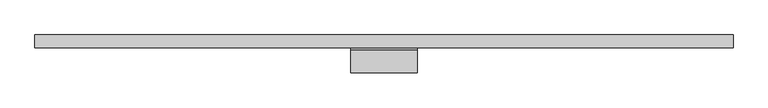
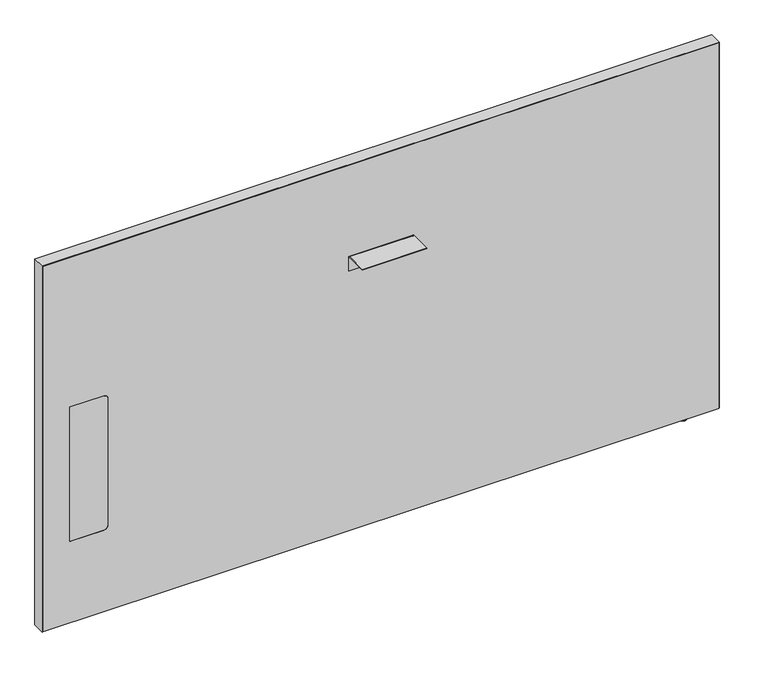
"""IFC4 building model written with IfcOpenShell, lengths in millimetres: furniture geometry, Steelcase - Answer Solution - Boundary Screen - Straight - Single Sided : 36H x 63W."""

import ifcopenshell
import ifcopenshell.guid

model = None  # the IFC model being written
_history = None  # IfcOwnerHistory: only IFC2X3 demands one
_inside = {}  # id of a spatial element -> (the spatial element, [elements in it])
_under = {}  # id of a project, library or spatial element -> (it, [spatial elements below it])
_declared = {}  # id of a project -> (the project, [libraries it declares])
_typed = {}  # id of a type object -> (the type object, [elements of that type])
_made_of = {}  # id of a material, layer set ... -> (it, [elements and type objects made of it])


def new_model(schema):
    """Start an empty IFC model of exactly this schema.

    Asked for "IFC4X3", IfcOpenShell would pick the latest addendum, in which some entities
    have other attributes; the version numbers below select the first issue.
    IFC2X3 requires an IfcOwnerHistory on every rooted entity: one is made here for all.
    """
    global model, _history
    if schema == "IFC4X3":
        model = ifcopenshell.file(schema_version=(4, 3, 0, 0))
    else:
        model = ifcopenshell.file(schema=schema)
    _inside.clear()
    _under.clear()
    _declared.clear()
    _typed.clear()
    _made_of.clear()
    _history = None
    if model.schema == "IFC2X3":
        org = make("IfcOrganization", Name="unknown")
        user = make(
            "IfcPersonAndOrganization",
            ThePerson=make("IfcPerson", FamilyName="unknown"),
            TheOrganization=org,
        )
        app = make(
            "IfcApplication",
            ApplicationDeveloper=org,
            Version="unknown",
            ApplicationFullName="unknown",
            ApplicationIdentifier="unknown",
        )
        _history = make(
            "IfcOwnerHistory",
            OwningUser=user,
            OwningApplication=app,
            ChangeAction="ADDED",
            CreationDate=0,
        )
    return model


def make(cls, **values):
    """One entity of the class cls with the attributes given. An attribute that is None is left unset."""
    return model.create_entity(
        cls, **{name: value for name, value in values.items() if value is not None}
    )


def rooted(cls, **values):
    """An entity with a GlobalId (a new one), such as an element, a storey or a relation."""
    return make(cls, GlobalId=ifcopenshell.guid.new(), OwnerHistory=_history, **values)


def si_unit(unit_type, name, prefix=None):
    """IfcSIUnit, for example si_unit("LENGTHUNIT", "METRE", prefix="MILLI")."""
    return make("IfcSIUnit", UnitType=unit_type, Prefix=prefix, Name=name)


def assignment(units):
    """IfcUnitAssignment: the units of a project."""
    return None if units is None else make("IfcUnitAssignment", Units=units)


def point(xyz):
    """IfcCartesianPoint."""
    return None if xyz is None else make("IfcCartesianPoint", Coordinates=xyz)


def direction(xyz):
    """IfcDirection."""
    return None if xyz is None else make("IfcDirection", DirectionRatios=xyz)


def frame(location, z_axis=None, x_axis=None):
    """IfcAxis2Placement3D, a coordinate frame: its origin and axes. An axis left out is left unset."""
    return make(
        "IfcAxis2Placement3D",
        Location=point(location),
        Axis=direction(z_axis),
        RefDirection=direction(x_axis),
    )


def frame_2d(location, x_axis=None):
    """IfcAxis2Placement2D, a coordinate frame in the plane: its origin and x axis."""
    return make(
        "IfcAxis2Placement2D", Location=point(location), RefDirection=direction(x_axis)
    )


def origin():
    """The frame at (0, 0, 0) with its axes left unset."""
    return frame((0.0, 0.0, 0.0))


def place(relative_to, where):
    """IfcLocalPlacement: puts the frame where relative to a parent placement (None: the world)."""
    return make(
        "IfcLocalPlacement", PlacementRelTo=relative_to, RelativePlacement=where
    )


def context(
    kind, dimensions, precision=None, world=None, true_north=None, identifier=None
):
    """IfcGeometricRepresentationContext, for example the 3D "Model" context."""
    return make(
        "IfcGeometricRepresentationContext",
        ContextIdentifier=identifier,
        ContextType=kind,
        CoordinateSpaceDimension=dimensions,
        Precision=precision,
        WorldCoordinateSystem=world,
        TrueNorth=true_north,
    )


def project(units=None, contexts=None):
    """IfcProject with its units and contexts."""
    return rooted(
        "IfcProject",
        Name="project",
        RepresentationContexts=contexts,
        UnitsInContext=assignment(units),
    )


def spatial(cls, under=None, at=None, **own):
    """A site, building, storey or space (cls), placed at a placement, below another one or the project."""
    s = rooted(cls, ObjectPlacement=at, **own)
    if under is not None:
        _under.setdefault(under.id(), (under, []))[1].append(s)
    return s


def polyline(points):
    """IfcPolyline through the points."""
    return make("IfcPolyline", Points=[point(p) for p in points])


def circle_curve(where, radius):
    """IfcCircle in the frame where."""
    return make("IfcCircle", Position=where, Radius=radius)


def ellipse_curve(where, semi_axis1, semi_axis2):
    """IfcEllipse in the frame where."""
    return make(
        "IfcEllipse", Position=where, SemiAxis1=semi_axis1, SemiAxis2=semi_axis2
    )


def trimmed(basis, trim1, trim2, sense, master):
    """IfcTrimmedCurve: the piece of a basis curve between two trims."""
    return make(
        "IfcTrimmedCurve",
        BasisCurve=basis,
        Trim1=trim1,
        Trim2=trim2,
        SenseAgreement=sense,
        MasterRepresentation=master,
    )


def segment(curve, same_sense, transition):
    """IfcCompositeCurveSegment."""
    return make(
        "IfcCompositeCurveSegment",
        Transition=transition,
        SameSense=same_sense,
        ParentCurve=curve,
    )


def composite_curve(segments, self_intersect=None):
    """IfcCompositeCurve: segments joined end to end."""
    return make("IfcCompositeCurve", Segments=segments, SelfIntersect=self_intersect)


def outline(outer, holes=None, kind="AREA"):
    """IfcArbitraryClosedProfileDef: a profile drawn as a closed curve; with holes, ...WithVoids."""
    if holes is None:
        return make("IfcArbitraryClosedProfileDef", ProfileType=kind, OuterCurve=outer)
    return make(
        "IfcArbitraryProfileDefWithVoids",
        ProfileType=kind,
        OuterCurve=outer,
        InnerCurves=holes,
    )


def extrude(swept, where, along, depth):
    """IfcExtrudedAreaSolid: the profile swept, set in the frame where, extruded along a direction by depth."""
    return make(
        "IfcExtrudedAreaSolid",
        SweptArea=swept,
        Position=where,
        ExtrudedDirection=direction(along),
        Depth=depth,
    )


def shape(context_of_items, identifier, shape_type, items):
    """IfcShapeRepresentation: the items that make up one representation, for example the "Body"."""
    return make(
        "IfcShapeRepresentation",
        ContextOfItems=context_of_items,
        RepresentationIdentifier=identifier,
        RepresentationType=shape_type,
        Items=items,
    )


def source(mapping_origin, context_of_items, identifier, shape_type, items):
    """IfcRepresentationMap: a shape defined once, which mapped items show again and again."""
    return make(
        "IfcRepresentationMap",
        MappingOrigin=mapping_origin,
        MappedRepresentation=shape(context_of_items, identifier, shape_type, items),
    )


def transform(
    local_origin,
    x_axis=None,
    y_axis=None,
    z_axis=None,
    scale=None,
    scale2=None,
    scale3=None,
    uniform=True,
):
    """IfcCartesianTransformationOperator3D, or its non-uniform kind. x_axis, y_axis, z_axis: its Axis1, 2, 3."""
    if uniform:
        return make(
            "IfcCartesianTransformationOperator3D",
            Axis1=direction(x_axis),
            Axis2=direction(y_axis),
            LocalOrigin=point(local_origin),
            Scale=scale,
            Axis3=direction(z_axis),
        )
    return make(
        "IfcCartesianTransformationOperator3DnonUniform",
        Axis1=direction(x_axis),
        Axis2=direction(y_axis),
        LocalOrigin=point(local_origin),
        Scale=scale,
        Axis3=direction(z_axis),
        Scale2=scale2,
        Scale3=scale3,
    )


def mapped(mapping_source, mapping_target):
    """IfcMappedItem: shows the shape of a source again, moved by a transform."""
    return make(
        "IfcMappedItem", MappingSource=mapping_source, MappingTarget=mapping_target
    )


def made_of(thing, what):
    """Note that an element or type object is made of a material, layer set ...; save() writes the relation."""
    if what is not None:
        _made_of.setdefault(what.id(), (what, []))[1].append(thing)
    return thing


def element(
    cls,
    number,
    at=None,
    inside=None,
    cuts=None,
    type_object=None,
    material=None,
    context=None,
    identifier="Body",
    shape_type=None,
    held_by="IfcProductDefinitionShape",
    body=None,
    shapes=None,
    **own,
):
    """One element of the class cls, such as IfcWall. Its Tag is "e" and its number.

    at: its placement. inside: the storey or other place that contains it. cuts: it is an
    opening in that element (IfcRelVoidsElement). A single representation is given by context,
    identifier, shape_type and body (its items); several are given by shapes. held_by: the class
    of the entity that holds the representations. save() writes the other relations.
    """
    e = rooted(cls, Tag="e%d" % number, ObjectPlacement=at, **own)
    if body is not None:
        shapes = [shape(context, identifier, shape_type, body)]
    if shapes is not None:
        e.Representation = make(held_by, Representations=shapes)
    if inside is not None:
        _inside.setdefault(inside.id(), (inside, []))[1].append(e)
    if cuts is not None:
        rooted(
            "IfcRelVoidsElement", RelatingBuildingElement=cuts, RelatedOpeningElement=e
        )
    if type_object is not None:
        _typed.setdefault(type_object.id(), (type_object, []))[1].append(e)
    return made_of(e, material)


def aggregate(whole, parts):
    """IfcRelAggregates: a whole, such as a stair, and the parts it consists of."""
    return rooted("IfcRelAggregates", RelatingObject=whole, RelatedObjects=parts)


def save(model, path):
    """Write the relations noted so far, then the file.

    IfcRelAggregates (storeys below a building ...), IfcRelContainedInSpatialStructure (elements
    in a storey), IfcRelDefinesByType, IfcRelAssociatesMaterial and IfcRelDeclares: one each for
    every whole, place, type object, material and project.
    """
    for whole, parts in _under.values():
        aggregate(whole, parts)
    for where, things in _inside.values():
        rooted(
            "IfcRelContainedInSpatialStructure",
            RelatedElements=things,
            RelatingStructure=where,
        )
    for kind, things in _typed.values():
        rooted("IfcRelDefinesByType", RelatedObjects=things, RelatingType=kind)
    for what, things in _made_of.values():
        rooted("IfcRelAssociatesMaterial", RelatedObjects=things, RelatingMaterial=what)
    for by, libraries in _declared.values():
        rooted("IfcRelDeclares", RelatingContext=by, RelatedDefinitions=libraries)
    model.write(path)


def plane_surface(at):
    """IfcPlane: the flat surface through the origin of the frame at, square to its z axis."""
    return make("IfcPlane", Position=at)


def cylinder_surface(at, radius):
    """IfcCylindricalSurface: all points at the distance radius from the z axis of the frame at."""
    return make("IfcCylindricalSurface", Position=at, Radius=radius)


def revolved_surface(curve, axis_point, axis_direction):
    """IfcSurfaceOfRevolution: the curve turned about the line through axis_point along axis_direction."""
    return make(
        "IfcSurfaceOfRevolution",
        SweptCurve=make("IfcArbitraryOpenProfileDef", ProfileType="CURVE", Curve=curve),
        AxisPosition=make("IfcAxis1Placement", Location=point(axis_point), Axis=direction(axis_direction)),
    )


def advanced_brep(points, edges, surfaces, faces):
    """IfcAdvancedBrep: a solid bounded by faces that lie on surfaces and meet in shared edges.

    An edge is (start, end): straight between two places in points (the first is 0);
    or (start, end, curve); or (start, end, curve, False) where it runs against its curve.
    A face is (place in surfaces, loops), or (place, loops, False) where it looks against
    its surface's normal. A loop lists edges by number (the first is 1), with a minus sign
    where the edge is run from its end to its start. The first loop is the outer one.
    """
    corners = [point(p) for p in points]
    vertices = [make("IfcVertexPoint", VertexGeometry=c) for c in corners]
    made = []
    for start, end, *more in edges:
        made.append(
            make(
                "IfcEdgeCurve",
                EdgeStart=vertices[start],
                EdgeEnd=vertices[end],
                EdgeGeometry=more[0] if more else make("IfcPolyline", Points=[corners[start], corners[end]]),
                SameSense=more[1] if len(more) > 1 else True,
            )
        )
    hull = []
    for where, loops, *sense in faces:
        bounds = []
        for j, loop in enumerate(loops):
            ring = [make("IfcOrientedEdge", EdgeElement=made[abs(k) - 1], Orientation=k > 0) for k in loop]
            bounds.append(
                make(
                    "IfcFaceOuterBound" if j == 0 else "IfcFaceBound",
                    Bound=make("IfcEdgeLoop", EdgeList=ring),
                    Orientation=True,
                )
            )
        hull.append(make("IfcAdvancedFace", Bounds=bounds, FaceSurface=surfaces[where], SameSense=sense[0] if sense else True))
    return make("IfcAdvancedBrep", Outer=make("IfcClosedShell", CfsFaces=hull))


def furniture_8a1e546a(model_context):
    return source(origin(), model_context, "Body", "SolidModel", [
        extrude(outline(composite_curve([segment(polyline([(-86.8398151, 696.4680019), (-86.8398151, 698.5), (-34.9450855, 698.5)]), True, "CONTINUOUS"), segment(trimmed(circle_curve(frame_2d((-34.9450855, 693.2447477)), 5.2552523), [point((-34.9450855, 698.5))], [point((-29.6898332, 693.2447477))], False, "CARTESIAN"), True, "CONTINUOUS"), segment(polyline([(-29.6898332, 693.2447477), (-29.6898332, 660.4), (-31.7218162, 660.4), (-31.7218162, 693.0058743)]), True, "CONTINUOUS"), segment(trimmed(circle_curve(frame_2d((-35.1839438, 693.0058743)), 3.4621276), [point((-31.7218162, 693.0058743))], [point((-35.1839438, 696.4680019))], True, "CARTESIAN"), True, "CONTINUOUS"), segment(polyline([(-35.1839438, 696.4680019), (-86.8398151, 696.4680019)]), True, "CONTINUOUS")], self_intersect=False)), frame((77.4191407, 0.0, 0.0), z_axis=(1.0, 0.0, 0.0), x_axis=(0.0, 1.0, 0.0)), (0.0, 0.0, 1.0), 152.4000969),
        advanced_brep(
        [(876.5286488, -23.7588726, 9.9059849), (876.5286488, -5.9309607, 9.9059849), (876.5286488, -14.8449166, 9.9059849), (876.5286488, -23.7588726, 2.9673238), (876.5286488, -5.9309607, 2.9673238), (876.5286488, -22.7915354, 2.9673238), (876.5286488, -6.8982978, 2.9673238), (876.5286488, -22.7915354, 1.6569081), (876.5286488, -6.8982978, 1.6569081), (876.5286488, -21.1346274, 0.0), (876.5286488, -8.5552059, 0.0), (876.5286488, -14.8449166, 0.0)],
        [
            (0, 1, circle_curve(frame((876.5286488, -14.8449166, 9.9059849), z_axis=(0.0, 0.0, 1.0), x_axis=(0.0, 1.0, 0.0)), 8.913956)),
            (1, 2),
            (2, 0),
            (1, 0, circle_curve(frame((876.5286488, -14.8449166, 9.9059849), z_axis=(0.0, 0.0, 1.0), x_axis=(0.0, 1.0, 0.0)), 8.913956)),
            (3, 4, circle_curve(frame((876.5286488, -14.8449166, 2.9673238), z_axis=(0.0, 0.0, 1.0), x_axis=(0.0, 1.0, 0.0)), 8.913956)),
            (4, 1),
            (0, 3),
            (4, 3, circle_curve(frame((876.5286488, -14.8449166, 2.9673238), z_axis=(0.0, 0.0, 1.0), x_axis=(0.0, 1.0, 0.0)), 8.913956)),
            (5, 6, circle_curve(frame((876.5286488, -14.8449166, 2.9673238), z_axis=(0.0, 0.0, 1.0), x_axis=(0.0, 1.0, 0.0)), 7.9466188)),
            (6, 4),
            (3, 5),
            (6, 5, circle_curve(frame((876.5286488, -14.8449166, 2.9673238), z_axis=(0.0, 0.0, 1.0), x_axis=(0.0, 1.0, 0.0)), 7.9466188)),
            (7, 8, circle_curve(frame((876.5286488, -14.8449166, 1.6569081), z_axis=(0.0, 0.0, 1.0), x_axis=(0.0, 1.0, 0.0)), 7.9466188)),
            (8, 6),
            (5, 7),
            (8, 7, circle_curve(frame((876.5286488, -14.8449166, 1.6569081), z_axis=(0.0, 0.0, 1.0), x_axis=(0.0, 1.0, 0.0)), 7.9466188)),
            (9, 10, circle_curve(frame((876.5286488, -14.8449166, 0.0), z_axis=(0.0, 0.0, 1.0), x_axis=(0.0, 1.0, 0.0)), 6.2897107)),
            (10, 8, circle_curve(frame((876.5286488, -8.5552059, 1.6569081), z_axis=(1.0, 0.0, 0.0), x_axis=(0.0, 1.0, 0.0)), 1.6569081)),
            (7, 9, circle_curve(frame((876.5286488, -21.1346274, 1.6569081), z_axis=(1.0, 0.0, 0.0), x_axis=(0.0, -1.0, 0.0)), 1.6569081)),
            (10, 9, circle_curve(frame((876.5286488, -14.8449166, 0.0), z_axis=(0.0, 0.0, 1.0), x_axis=(0.0, 1.0, 0.0)), 6.2897107)),
            (11, 10),
            (9, 11),
        ],
        [
            plane_surface(frame((876.5286488, -14.8449166, 9.9059849), z_axis=(0.0, 0.0, 1.0), x_axis=(0.0, 1.0, 0.0))),
            cylinder_surface(frame((876.5286488, -14.8449166, 9.9059849), z_axis=(0.0, 0.0, -1.0), x_axis=(0.0, 1.0, 0.0)), 8.913956),
            plane_surface(frame((876.5286488, -14.8449166, 2.9673238), z_axis=(0.0, 0.0, -1.0), x_axis=(0.0, 1.0, 0.0))),
            cylinder_surface(frame((876.5286488, -14.8449166, 9.9059849), z_axis=(0.0, 0.0, -1.0), x_axis=(0.0, 1.0, 0.0)), 7.9466188),
            revolved_surface(trimmed(ellipse_curve(frame((876.5286488, -8.5552059, 1.6569081), z_axis=(-1.0, 0.0, 0.0), x_axis=(0.0, 1.0, 0.0)), 1.6569081, 1.6569081), [point((876.5286488, -6.8982978, 1.6569081))], [point((876.5286488, -8.5552059, 0.0))], True, "CARTESIAN"), (876.5286488, -14.8449166, 9.9059849), (0.0, 0.0, -1.0)),
            plane_surface(frame((876.5286488, -14.8449166, 0.0), z_axis=(0.0, 0.0, -1.0), x_axis=(0.0, 1.0, 0.0))),
        ],
        [
            (0, [[1, 2, 3]]),
            (0, [[4, -3, -2]]),
            (1, [[5, 6, -1, 7]]),
            (1, [[8, -7, -4, -6]]),
            (2, [[9, 10, -5, 11]]),
            (2, [[12, -11, -8, -10]]),
            (3, [[13, 14, -9, 15]]),
            (3, [[16, -15, -12, -14]]),
            (4, [[17, 18, -13, 19]]),
            (4, [[20, -19, -16, -18]]),
            (5, [[21, -17, 22]]),
            (5, [[-22, -20, -21]]),
        ],
    ),
        advanced_brep(
        [(952.6780168, 0.0, 924.342118), (952.6780168, 0.0, 9.9059849), (-645.4902221, 0.0, 9.9059849), (-645.4902221, 0.0, 924.342118), (952.6780168, -29.6898332, 924.342118), (-645.4902221, -29.6898332, 924.342118), (-645.4902221, -29.6898332, 9.9059849), (952.6780168, -29.6898332, 9.9059849), (-501.1463873, -29.6898332, 549.6162029), (-490.9863873, -29.6898332, 539.4562029), (-490.9863873, -29.6898332, 223.9362137), (-501.1463873, -29.6898332, 213.7762137), (-580.800285, -29.6898332, 213.7762137), (-580.800285, -29.6898332, 549.6162029), (-580.800285, -29.0550397, 549.6162029), (-501.1463873, -29.0550397, 549.6162029), (-580.800285, -29.0550397, 213.7762137), (-501.1463873, -29.0550397, 213.7762137), (-490.9863873, -29.0550397, 223.9362137), (-490.9863873, -29.0550397, 539.4562029)],
        [
            (0, 1),
            (1, 2),
            (2, 3),
            (3, 0),
            (4, 5),
            (5, 6),
            (6, 7),
            (7, 4),
            (8, 9, circle_curve(frame((-501.1463873, -29.6898332, 539.4562029), z_axis=(0.0, 1.0, 0.0), x_axis=(0.0, 0.0, 1.0)), 10.16)),
            (9, 10),
            (10, 11, circle_curve(frame((-501.1463873, -29.6898332, 223.9362137), z_axis=(0.0, 1.0, 0.0), x_axis=(0.0, 0.0, 1.0)), 10.16)),
            (11, 12),
            (12, 13),
            (13, 8),
            (0, 4),
            (7, 1),
            (6, 2),
            (5, 3),
            (13, 14),
            (14, 15),
            (15, 8),
            (12, 16),
            (16, 14),
            (11, 17),
            (17, 16),
            (10, 18),
            (18, 17, circle_curve(frame((-501.1463873, -29.0550397, 223.9362137), z_axis=(0.0, 1.0, 0.0), x_axis=(0.0, 0.0, 1.0)), 10.16)),
            (9, 19),
            (19, 18),
            (15, 19, circle_curve(frame((-501.1463873, -29.0550397, 539.4562029), z_axis=(0.0, 1.0, 0.0), x_axis=(0.0, 0.0, 1.0)), 10.16)),
        ],
        [
            plane_surface(frame((952.6780168, 0.0, 924.342118), z_axis=(0.0, 1.0, 0.0), x_axis=(0.0, 0.0, -1.0))),
            plane_surface(frame((952.6780168, -29.6898332, 924.342118), z_axis=(0.0, -1.0, 0.0), x_axis=(0.0, 0.0, 1.0))),
            plane_surface(frame((952.6780168, 0.0, 924.342118), z_axis=(1.0, 0.0, 0.0), x_axis=(0.0, -1.0, 0.0))),
            plane_surface(frame((952.6780168, 0.0, 9.9059849), z_axis=(0.0, 0.0, -1.0), x_axis=(0.0, -1.0, 0.0))),
            plane_surface(frame((-645.4902221, 0.0, 9.9059849), z_axis=(-1.0, 0.0, 0.0), x_axis=(0.0, -1.0, 0.0))),
            plane_surface(frame((-645.4902221, 0.0, 924.342118), z_axis=(0.0, 0.0, 1.0), x_axis=(0.0, -1.0, 0.0))),
            plane_surface(frame((-501.1463873, 0.0, 549.6162029), z_axis=(0.0, 0.0, -1.0), x_axis=(0.0, -1.0, 0.0))),
            plane_surface(frame((-580.800285, 0.0, 549.6162029), z_axis=(1.0, 0.0, 0.0), x_axis=(0.0, -1.0, 0.0))),
            plane_surface(frame((-580.800285, 0.0, 213.7762137), z_axis=(0.0, 0.0, 1.0), x_axis=(0.0, -1.0, 0.0))),
            revolved_surface(polyline([(-501.1463873, -29.6898332, 234.0962137), (-501.1463873, -29.0550397, 234.0962137)]), (-501.1463873, -29.6898332, 223.9362137), (0.0, -1.0, 0.0)),
            plane_surface(frame((-490.9863873, 0.0, 223.9362137), z_axis=(-1.0, 0.0, 0.0), x_axis=(0.0, -1.0, 0.0))),
            revolved_surface(polyline([(-501.1463873, -29.6898332, 549.6162029), (-501.1463873, -29.0550397, 549.6162029)]), (-501.1463873, -29.6898332, 539.4562029), (0.0, -1.0, 0.0)),
            plane_surface(frame((-490.9863873, -29.0550397, 629.172953), z_axis=(0.0, -1.0, 0.0), x_axis=(0.0, 0.0, 1.0))),
        ],
        [
            (0, [[1, 2, 3, 4]]),
            (1, [[5, 6, 7, 8], [9, 10, 11, 12, 13, 14]]),
            (2, [[-1, 15, -8, 16]]),
            (3, [[-2, -16, -7, 17]]),
            (4, [[-3, -17, -6, 18]]),
            (5, [[-4, -18, -5, -15]]),
            (6, [[-14, 19, 20, 21]]),
            (7, [[-13, 22, 23, -19]]),
            (8, [[-12, 24, 25, -22]]),
            (9, [[-11, 26, 27, -24]]),
            (10, [[-10, 28, 29, -26]]),
            (11, [[-9, -21, 30, -28]]),
            (12, [[-20, -23, -25, -27, -29, -30]]),
        ],
    ),
        extrude(outline(composite_curve([segment(polyline([(549.6162029, -501.1463873), (549.6162029, -580.800285), (213.7762137, -580.800285), (213.7762137, -501.1463873)]), True, "CONTINUOUS"), segment(trimmed(circle_curve(frame_2d((223.9362137, -501.1463873)), 10.16), [point((213.7762137, -501.1463873))], [point((223.9362137, -490.9863873))], False, "CARTESIAN"), True, "CONTINUOUS"), segment(polyline([(223.9362137, -490.9863873), (539.4562029, -490.9863873)]), True, "CONTINUOUS"), segment(trimmed(circle_curve(frame_2d((539.4562029, -501.1463873)), 10.16), [point((539.4562029, -490.9863873))], [point((549.6162029, -501.1463873))], False, "CARTESIAN"), True, "CONTINUOUS")], self_intersect=False)), frame((0.0, -29.6898332, 0.0), z_axis=(0.0, 1.0, 0.0), x_axis=(0.0, 0.0, 1.0)), (0.0, 0.0, 1.0), 0.6347935),
        extrude(outline(polyline([(925.322, 953.7191891), (925.322, -646.4808109), (9.9059849, -646.4808109), (9.9059849, -645.4902221), (924.342118, -645.4902221), (924.342118, 952.6780168), (9.9059849, 952.6780168), (9.9059849, 953.7191891), (925.322, 953.7191891)])), frame((0.0, -29.6898332, 0.0), z_axis=(0.0, 1.0, 0.0), x_axis=(0.0, 0.0, 1.0)), (0.0, 0.0, 1.0), 29.6898332),
    ])


if __name__ == "__main__":
    model = new_model("IFC4")
    model_context = context("Model", 3, world=origin())
    ifc_project = project(units=[si_unit("LENGTHUNIT", "METRE", prefix="MILLI")], contexts=[model_context])
    site = spatial("IfcSite", under=ifc_project)
    building = spatial("IfcBuilding", under=site)
    placement = place(None, origin())
    furniture_shape = furniture_8a1e546a(model_context)
    element("IfcFurniture", 1, ObjectType="Steelcase - Answer Solution - Boundary Screen - Straight - Single Sided : 36H x 63W", at=placement, inside=building, context=model_context, shape_type="MappedRepresentation", body=[
        mapped(furniture_shape, transform((0.0, 0.0, 0.0), x_axis=(1.0, 0.0, 0.0), y_axis=(0.0, 1.0, 0.0), z_axis=(0.0, 0.0, 1.0))),
    ])
    save(model, "model.ifc")
